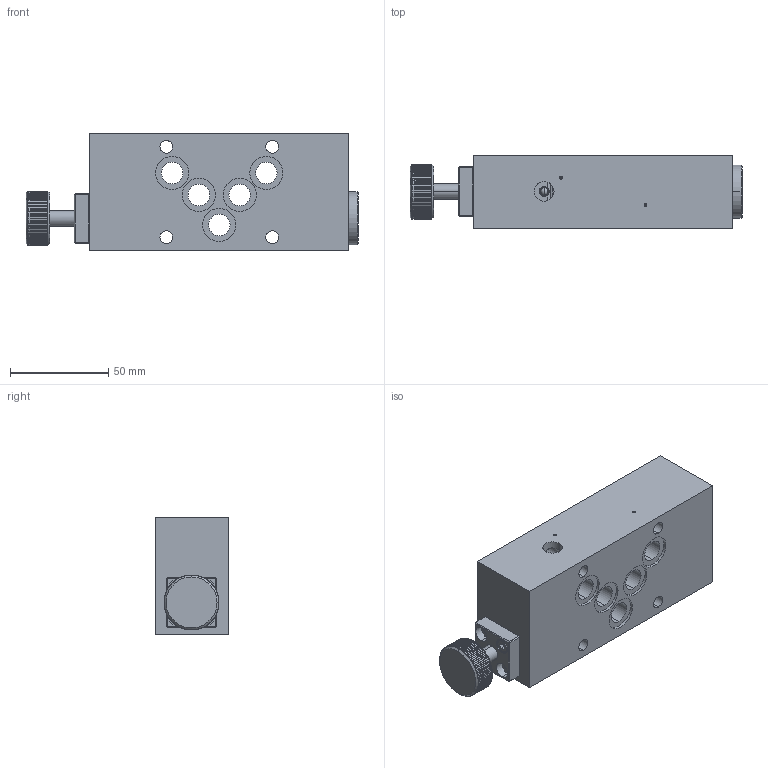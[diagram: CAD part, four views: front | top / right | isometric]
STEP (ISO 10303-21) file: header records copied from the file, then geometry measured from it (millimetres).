
FILE_DESCRIPTION (( 'STEP AP214' ), '1' );
FILE_NAME ('AAHP10_V.STEP', '2017-05-08T12:28:12', ( '' ), ( '' ), 'SwSTEP 2.0', 'SolidWorks 2016', '' );
FILE_SCHEMA (( 'AUTOMOTIVE_DESIGN' ));
Length unit declared in the file: millimetre
Products named in the file (1): AAHP10_V
Bounding box: 169.2 x 37.5 x 60 mm (x, y, z)
Volume: 289891.1 mm3; surface area: 49353.9 mm2
Topology: 9 solids, 10 shells, 564 faces, 1477 edges, 943 vertices
Faces by surface type: cylinder 361, plane 135, cone 54, torus 10, sphere 4
Entity records: 25453 total; most frequent: CARTESIAN_POINT 5582, ORIENTED_EDGE 2918, DIRECTION 2737, EDGE_CURVE 1459, AXIS2_PLACEMENT_3D 1066, VERTEX_POINT 943, EDGE_LOOP 626, VECTOR 605
